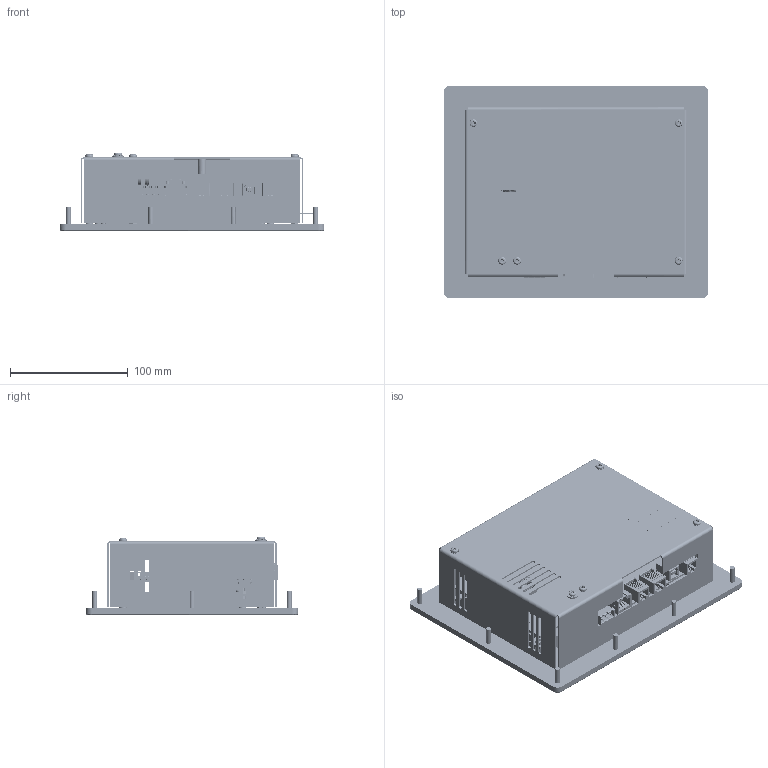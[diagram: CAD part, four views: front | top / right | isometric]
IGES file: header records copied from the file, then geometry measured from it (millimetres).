
Start section: Comment
Global section: file name: G306A.igs; native system:  By UGS Corp.; preprocessor: XPlus GENERIC/IGES 3.0; author: Author; organization: Title; date: 20100810.134606; units: millimetre
Bounding box: 224.28 x 179.83 x 66.34 mm (x, y, z)
Surface area: 430096.5 mm2 (no closed solid volume)
Topology: 0 solids, 0 shells, 10892 faces, 62338 edges, 62294 vertices
Faces by surface type: bspline 10892
